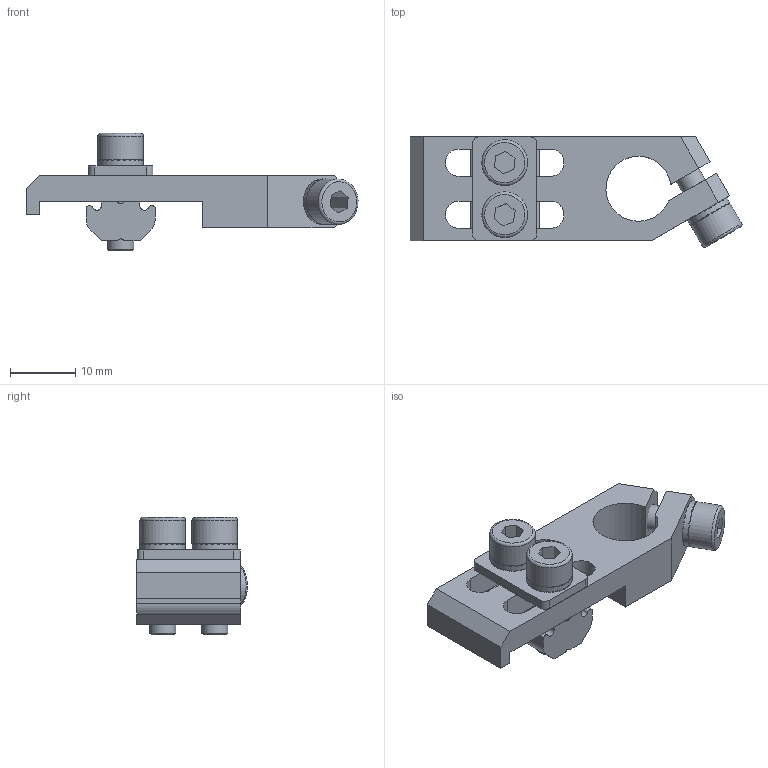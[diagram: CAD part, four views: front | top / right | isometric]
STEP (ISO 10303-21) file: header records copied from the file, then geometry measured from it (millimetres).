
FILE_DESCRIPTION(('STEP AP214'),'1');
FILE_NAME('CA.WST.1014.X.stp','2017-04-06T12:36:56',(' '),(' '),'Spatial InterOp 3D',' ',' ');
FILE_SCHEMA(('automotive_design'));
Length unit declared in the file: millimetre
Products named in the file (7): V-tcei M  4 x 14; R.04.08; WST.1014; R.4.SCH; CA.GWP.4.8; V-tcei M  4 x 12
Assembly tree (9 placements, depth 2):
  (unnamed)
    V-tcei M  4 x 14  x2
    R.04.08
    WST.1014
    R.4.SCH  x3
    CA.GWP.4.8
    V-tcei M  4 x 12
Bounding box: 51.01 x 17 x 18 mm (x, y, z)
Volume: 4294.5 mm3; surface area: 5036.9 mm2
Topology: 6 solids, 9 shells, 696 faces, 2034 edges, 1349 vertices
Faces by surface type: plane 648, cylinder 39, torus 6, cone 3
Full cylindrical faces by diameter (mm): 3.242 x2, 3.6 x1, 4 x3, 4.2 x1, 4.3 x3, 4.6 x2, 7 x6
Entity records: 12091 total; most frequent: CARTESIAN_POINT 1744, DIRECTION 1671, ORIENTED_EDGE 1634, EDGE_CURVE 817, AXIS2_PLACEMENT_3D 559, LINE 553, VECTOR 553, VERTEX_POINT 552
